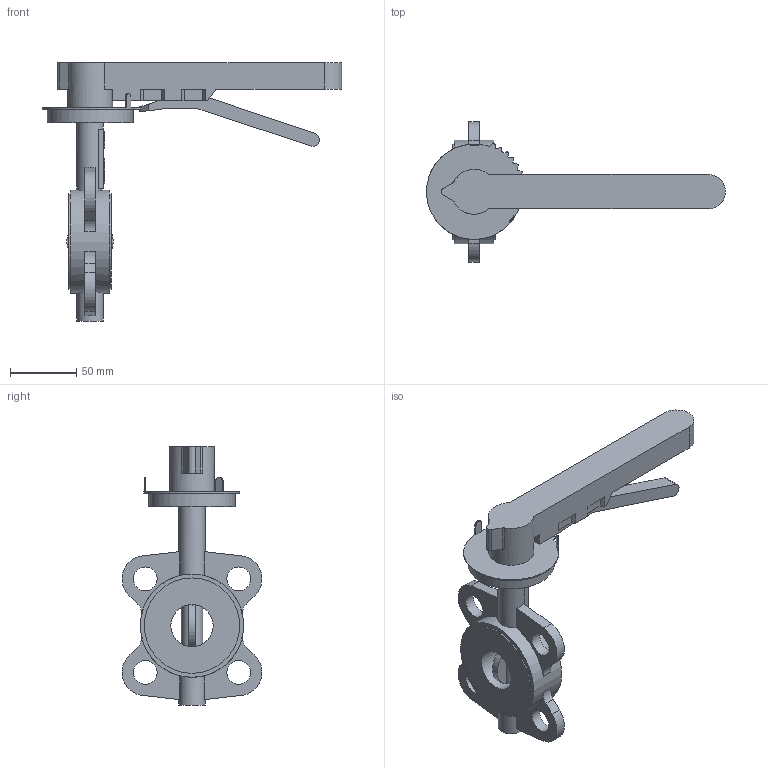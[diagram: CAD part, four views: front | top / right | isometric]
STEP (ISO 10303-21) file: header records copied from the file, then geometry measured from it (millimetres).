
FILE_DESCRIPTION(('STEP AP203'), '1');
FILE_NAME('青蜮铕 017WDN32', '', ('UNSPECIFIED'), ('UNSPECIFIED'), 'ASCON STEP Converter 1.6', 'ASCON Math Kernel', '');
FILE_SCHEMA(('CONFIG_CONTROL_DESIGN'));
Length unit declared in the file: millimetre
Bounding box: 225.97 x 105.68 x 195 mm (x, y, z)
Volume: 371703.5 mm3; surface area: 73428.5 mm2
Topology: 1 solids, 1 shells, 680 faces, 1941 edges, 1292 vertices
Faces by surface type: cylinder 404, plane 276
Full cylindrical faces by diameter (mm): 8 x4, 16 x1, 18 x4, 20 x2, 32 x1, 34 x1, 65 x1, 72 x2, 78 x1
Entity records: 28765 total; most frequent: CARTESIAN_POINT 4813, DIRECTION 4077, ORIENTED_EDGE 3848, EDGE_CURVE 1924, AXIS2_PLACEMENT_3D 1497, VERTEX_POINT 1292, LINE 1083, VECTOR 1083
